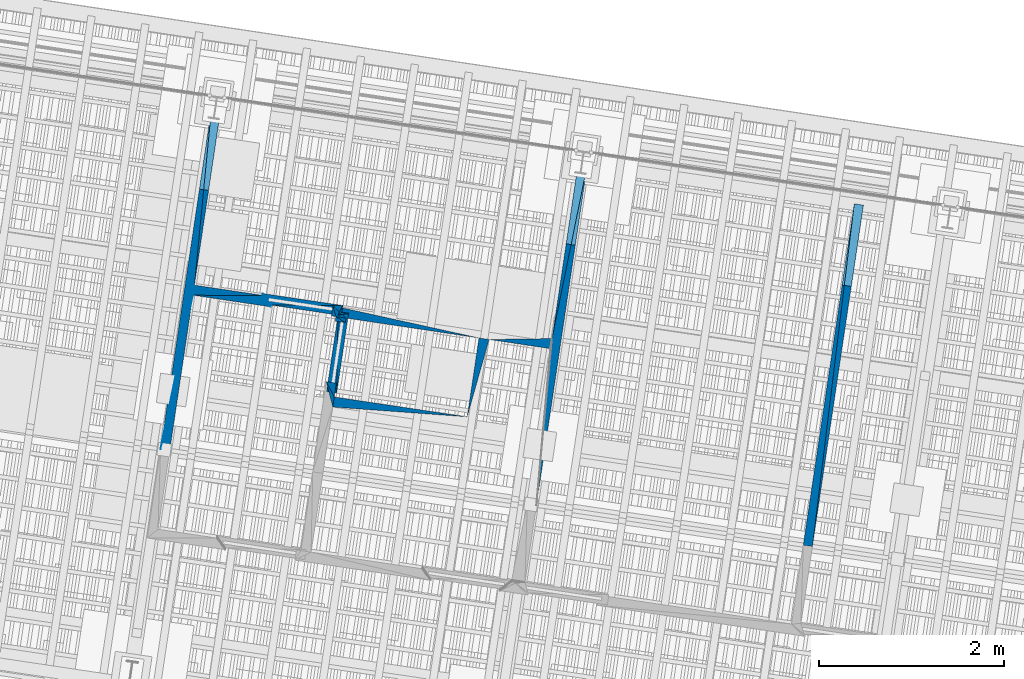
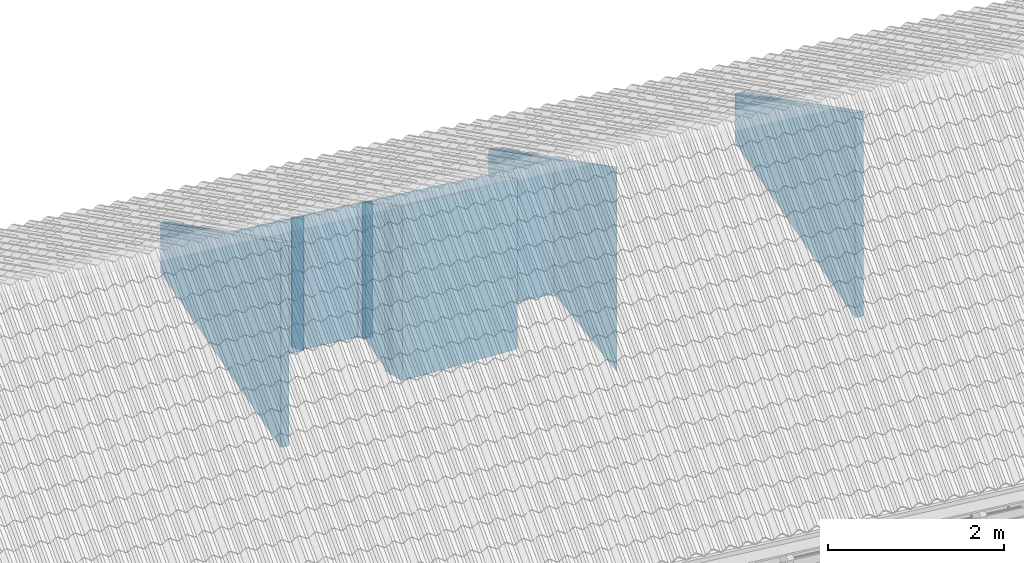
# One storey, part 125 of 131: 28 walls.
"""IFC4 building model written with IfcOpenShell, lengths in metres."""

from ifc_helpers import new_model, si_unit, direction, frame, origin_with_axes, place, context, subcontext, project, spatial, polygons, material, element, save


model = new_model("IFC4")

# Units and contexts
model_context = context("Model", 3, precision=1e-05, world=origin_with_axes(), true_north=direction((0.0, 1.0)))
body_context = subcontext(model_context, "Body", "Model", "MODEL_VIEW")
ifc_project = project(units=[si_unit("VOLUMEUNIT", "CUBIC_METRE"), si_unit("LENGTHUNIT", "METRE"), si_unit("AREAUNIT", "SQUARE_METRE")], contexts=[model_context])

# Site, building, storey
site_placement = place(None, origin_with_axes())
site = spatial("IfcSite", under=ifc_project, at=site_placement, Name="Lares · Rua das Mercês · artigo 4771")
building_placement = place(site_placement, frame((15.0, 9.7, 14.65), z_axis=(0.0, 0.0, 1.0), x_axis=(0.989015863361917, -0.147809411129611, 0.0)))
building = spatial("IfcBuilding", under=site, at=building_placement, Name="Casa Sobreposta")
storey_placement = place(building_placement, origin_with_axes())
storey = spatial("IfcBuildingStorey", under=building, at=storey_placement, Name="00 · Habitação e estacionamento", Elevation=14.65)

# Walls
ifc_material = material(Name="OSB", Category="wood")
wall_1_placement = place(storey_placement, origin_with_axes())
element("IfcWall", 1, at=wall_1_placement, inside=storey, material=ifc_material, Name="Divisória · prolongamento até ao forro", context=body_context, shape_type="Tessellation", body=[
    polygons([(7.96000000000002, 6.27299999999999, 3.05), (7.96000000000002, 2.55, 3.05), (8.05999999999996, 4.35299999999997, 3.05), (7.96000000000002, 6.27299999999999, 3.73973364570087), (7.96000000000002, 2.55, 5.88920869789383), (8.05999999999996, 4.35299999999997, 4.84824616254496)], [[[3, 2, 1]], [[4, 5, 6]], [[1, 2, 5, 4]], [[2, 3, 6, 5]], [[3, 1, 4, 6]]]),
])
wall_2_placement = place(storey_placement, origin_with_axes())
element("IfcWall", 2, at=wall_2_placement, inside=storey, material=ifc_material, Name="Divisória · prolongamento até ao forro", context=body_context, shape_type="Tessellation", body=[
    polygons([(7.96000000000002, 6.27299999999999, 3.05), (8.05999999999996, 4.35299999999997, 3.05), (8.05999999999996, 6.27299999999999, 3.05), (7.96000000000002, 6.27299999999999, 3.73973364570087), (8.05999999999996, 4.35299999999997, 4.84824616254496), (8.05999999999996, 6.27299999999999, 3.73973364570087)], [[[3, 2, 1]], [[4, 5, 6]], [[1, 2, 5, 4]], [[2, 3, 6, 5]], [[3, 1, 4, 6]]]),
])
wall_3_placement = place(storey_placement, origin_with_axes())
element("IfcWall", 3, at=wall_3_placement, inside=storey, material=ifc_material, Name="Divisória · prolongamento até ao forro", context=body_context, shape_type="Tessellation", body=[
    polygons([(9.74955631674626, 4.29756574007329, 3.05), (9.67461809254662, 4.29755537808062, 3.05), (9.63956117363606, 4.26243297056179, 3.05), (9.74955631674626, 4.29756574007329, 4.88025114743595), (9.67461809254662, 4.29755537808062, 4.88025712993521), (9.63956117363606, 4.26243297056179, 4.90053506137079)], [[[3, 2, 1]], [[4, 5, 6]], [[1, 2, 5, 4]], [[2, 3, 6, 5]], [[3, 1, 4, 6]]]),
])
wall_4_placement = place(storey_placement, origin_with_axes())
element("IfcWall", 4, at=wall_4_placement, inside=storey, material=ifc_material, Name="Divisória · prolongamento até ao forro", context=body_context, shape_type="Tessellation", body=[
    polygons([(9.74955631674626, 4.29756574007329, 3.05), (9.63956117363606, 4.26243297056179, 3.05), (9.74967661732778, 3.42754853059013, 3.05), (9.74955631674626, 4.29756574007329, 4.88025114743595), (9.63956117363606, 4.26243297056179, 4.90053506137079), (9.74967661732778, 3.42754853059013, 5.38255581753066)], [[[3, 2, 1]], [[4, 5, 6]], [[1, 2, 5, 4]], [[2, 3, 6, 5]], [[3, 1, 4, 6]]]),
])
wall_5_placement = place(storey_placement, origin_with_axes())
element("IfcWall", 5, at=wall_5_placement, inside=storey, material=ifc_material, Name="Divisória · prolongamento até ao forro", context=body_context, shape_type="Tessellation", body=[
    polygons([(9.74967661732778, 3.42754853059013, 3.05), (9.63956117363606, 4.26243297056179, 3.05), (9.63967661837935, 3.4275333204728, 3.05), (9.74967661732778, 3.42754853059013, 5.38255581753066), (9.63956117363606, 4.26243297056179, 4.90053506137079), (9.63967661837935, 3.4275333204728, 5.382564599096)], [[[3, 2, 1]], [[4, 5, 6]], [[1, 2, 5, 4]], [[2, 3, 6, 5]], [[3, 1, 4, 6]]]),
])
wall_6_placement = place(storey_placement, origin_with_axes())
element("IfcWall", 6, at=wall_6_placement, inside=storey, material=ifc_material, Name="Divisória · prolongamento até ao forro", context=body_context, shape_type="Tessellation", body=[
    polygons([(8.05999999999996, 2.55, 3.05), (8.05999999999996, 4.24299999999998, 3.05), (7.96000000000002, 2.55, 3.05), (8.05999999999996, 2.55, 5.88920869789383), (8.05999999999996, 4.24299999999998, 4.91175469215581), (7.96000000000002, 2.55, 5.88920869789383)], [[[3, 2, 1]], [[4, 5, 6]], [[1, 2, 5, 4]], [[2, 3, 6, 5]], [[3, 1, 4, 6]]]),
])
wall_7_placement = place(storey_placement, origin_with_axes())
element("IfcWall", 7, at=wall_7_placement, inside=storey, material=ifc_material, Name="Divisória · prolongamento até ao forro", context=body_context, shape_type="Tessellation", body=[
    polygons([(7.96000000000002, 2.55, 3.05), (8.05999999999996, 4.24299999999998, 3.05), (8.05999999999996, 4.35299999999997, 3.05), (7.96000000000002, 2.55, 5.88920869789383), (8.05999999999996, 4.24299999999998, 4.91175469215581), (8.05999999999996, 4.35299999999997, 4.84824616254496)], [[[3, 2, 1]], [[4, 5, 6]], [[1, 2, 5, 4]], [[2, 3, 6, 5]], [[3, 1, 4, 6]]]),
])
wall_8_placement = place(storey_placement, origin_with_axes())
element("IfcWall", 8, at=wall_8_placement, inside=storey, material=ifc_material, Name="Divisória · prolongamento até ao forro", context=body_context, shape_type="Tessellation", body=[
    polygons([(8.05999999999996, 4.35299999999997, 3.05), (8.05999999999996, 4.24299999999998, 3.05), (8.80454037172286, 4.35299999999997, 3.05), (8.05999999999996, 4.35299999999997, 4.84824616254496), (8.05999999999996, 4.24299999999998, 4.91175469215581), (8.80454037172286, 4.35299999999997, 4.84824616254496)], [[[3, 2, 1]], [[4, 5, 6]], [[1, 2, 5, 4]], [[2, 3, 6, 5]], [[3, 1, 4, 6]]]),
])
wall_9_placement = place(storey_placement, origin_with_axes())
element("IfcWall", 9, at=wall_9_placement, inside=storey, material=ifc_material, Name="Divisória · prolongamento até ao forro", context=body_context, shape_type="Tessellation", body=[
    polygons([(8.80454322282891, 4.37255471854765, 3.05), (8.80454037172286, 4.35299999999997, 3.05), (8.90999999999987, 4.26253934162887, 3.05), (8.80454322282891, 4.37255471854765, 4.83695624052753), (8.80454037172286, 4.35299999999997, 4.84824616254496), (8.90999999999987, 4.26253934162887, 4.90047364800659)], [[[3, 2, 1]], [[4, 5, 6]], [[1, 2, 5, 4]], [[2, 3, 6, 5]], [[3, 1, 4, 6]]]),
])
wall_10_placement = place(storey_placement, origin_with_axes())
element("IfcWall", 10, at=wall_10_placement, inside=storey, material=ifc_material, Name="Divisória · prolongamento até ao forro", context=body_context, shape_type="Tessellation", body=[
    polygons([(8.80454322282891, 4.37255471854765, 3.05), (8.90999999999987, 4.26253934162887, 3.05), (9.67462900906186, 4.37242785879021, 3.05), (8.80454322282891, 4.37255471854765, 4.83695624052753), (8.90999999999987, 4.26253934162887, 4.90047364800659), (9.67462900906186, 4.37242785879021, 4.83702948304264)], [[[3, 2, 1]], [[4, 5, 6]], [[1, 2, 5, 4]], [[2, 3, 6, 5]], [[3, 1, 4, 6]]]),
])
wall_11_placement = place(storey_placement, origin_with_axes())
element("IfcWall", 11, at=wall_11_placement, inside=storey, material=ifc_material, Name="Divisória · prolongamento até ao forro", context=body_context, shape_type="Tessellation", body=[
    polygons([(9.67462900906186, 4.37242785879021, 3.05), (8.90999999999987, 4.26253934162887, 3.05), (9.63956117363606, 4.26243297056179, 3.05), (9.67462900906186, 4.37242785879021, 4.83702948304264), (8.90999999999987, 4.26253934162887, 4.90047364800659), (9.63956117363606, 4.26243297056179, 4.90053506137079)], [[[3, 2, 1]], [[4, 5, 6]], [[1, 2, 5, 4]], [[2, 3, 6, 5]], [[3, 1, 4, 6]]]),
])
wall_12_placement = place(storey_placement, origin_with_axes())
element("IfcWall", 12, at=wall_12_placement, inside=storey, material=ifc_material, Name="Divisória · prolongamento até ao forro", context=body_context, shape_type="Tessellation", body=[
    polygons([(9.67462900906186, 4.37242785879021, 3.05), (9.63956117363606, 4.26243297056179, 3.05), (9.67461809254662, 4.29755537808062, 3.05), (9.67462900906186, 4.37242785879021, 4.83702948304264), (9.63956117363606, 4.26243297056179, 4.90053506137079), (9.67461809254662, 4.29755537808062, 4.88025712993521)], [[[3, 2, 1]], [[4, 5, 6]], [[1, 2, 5, 4]], [[2, 3, 6, 5]], [[3, 1, 4, 6]]]),
])
wall_13_placement = place(storey_placement, origin_with_axes())
element("IfcWall", 13, at=wall_13_placement, inside=storey, material=ifc_material, Name="Divisória · prolongamento até ao forro", context=body_context, shape_type="Tessellation", body=[
    polygons([(8.90999999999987, 4.24299999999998, 3.05), (8.90999999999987, 4.26253934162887, 3.05), (8.80454037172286, 4.35299999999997, 3.05), (8.90999999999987, 4.24299999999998, 4.91175469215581), (8.90999999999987, 4.26253934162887, 4.90047364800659), (8.80454037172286, 4.35299999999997, 4.84824616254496)], [[[3, 2, 1]], [[4, 5, 6]], [[1, 2, 5, 4]], [[2, 3, 6, 5]], [[3, 1, 4, 6]]]),
])
wall_14_placement = place(storey_placement, origin_with_axes())
element("IfcWall", 14, at=wall_14_placement, inside=storey, material=ifc_material, Name="Divisória · prolongamento até ao forro", context=body_context, shape_type="Tessellation", body=[
    polygons([(8.90999999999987, 4.24299999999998, 3.05), (8.80454037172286, 4.35299999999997, 3.05), (8.05999999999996, 4.24299999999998, 3.05), (8.90999999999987, 4.24299999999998, 4.91175469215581), (8.80454037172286, 4.35299999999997, 4.84824616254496), (8.05999999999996, 4.24299999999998, 4.91175469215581)], [[[3, 2, 1]], [[4, 5, 6]], [[1, 2, 5, 4]], [[2, 3, 6, 5]], [[3, 1, 4, 6]]]),
])
wall_15_placement = place(storey_placement, origin_with_axes())
element("IfcWall", 15, at=wall_15_placement, inside=storey, material=ifc_material, Name="Divisória · prolongamento até ao forro", context=body_context, shape_type="Tessellation", body=[
    polygons([(9.56999999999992, 4.35299999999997, 3.05), (9.56999999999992, 4.24299999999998, 3.05), (9.61999999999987, 4.24299999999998, 3.05), (9.56999999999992, 4.35299999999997, 4.84824616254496), (9.56999999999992, 4.24299999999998, 4.91175469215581), (9.61999999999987, 4.24299999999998, 4.91175469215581)], [[[3, 2, 1]], [[4, 5, 6]], [[1, 2, 5, 4]], [[2, 3, 6, 5]], [[3, 1, 4, 6]]]),
])
wall_16_placement = place(storey_placement, origin_with_axes())
element("IfcWall", 16, at=wall_16_placement, inside=storey, material=ifc_material, Name="Divisória · prolongamento até ao forro", context=body_context, shape_type="Tessellation", body=[
    polygons([(9.56999999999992, 4.35299999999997, 3.05), (9.61999999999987, 4.24299999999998, 3.05), (9.72999999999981, 4.24299999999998, 3.05), (9.56999999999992, 4.35299999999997, 4.84824616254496), (9.61999999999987, 4.24299999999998, 4.91175469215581), (9.72999999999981, 4.24299999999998, 4.91175469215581)], [[[3, 2, 1]], [[4, 5, 6]], [[1, 2, 5, 4]], [[2, 3, 6, 5]], [[3, 1, 4, 6]]]),
])
wall_17_placement = place(storey_placement, origin_with_axes())
element("IfcWall", 17, at=wall_17_placement, inside=storey, material=ifc_material, Name="Divisória · prolongamento até ao forro", context=body_context, shape_type="Tessellation", body=[
    polygons([(9.56999999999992, 4.35299999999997, 3.05), (9.72999999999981, 4.24299999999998, 3.05), (11.1799999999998, 4.24299999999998, 3.05), (9.56999999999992, 4.35299999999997, 4.84824616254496), (9.72999999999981, 4.24299999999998, 4.91175469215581), (11.1799999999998, 4.24299999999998, 4.91175469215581)], [[[3, 2, 1]], [[4, 5, 6]], [[1, 2, 5, 4]], [[2, 3, 6, 5]], [[3, 1, 4, 6]]]),
])
wall_18_placement = place(storey_placement, origin_with_axes())
element("IfcWall", 18, at=wall_18_placement, inside=storey, material=ifc_material, Name="Divisória · prolongamento até ao forro", context=body_context, shape_type="Tessellation", body=[
    polygons([(11.96, 6.27299999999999, 3.05), (11.96, 4.35299999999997, 3.05), (12.06, 6.27299999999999, 3.05), (11.96, 6.27299999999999, 3.73973364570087), (11.96, 4.35299999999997, 4.84824616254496), (12.06, 6.27299999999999, 3.73973364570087)], [[[3, 2, 1]], [[4, 5, 6]], [[1, 2, 5, 4]], [[2, 3, 6, 5]], [[3, 1, 4, 6]]]),
])
wall_19_placement = place(storey_placement, origin_with_axes())
element("IfcWall", 19, at=wall_19_placement, inside=storey, material=ifc_material, Name="Divisória · prolongamento até ao forro", context=body_context, shape_type="Tessellation", body=[
    polygons([(12.06, 6.27299999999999, 3.05), (11.96, 4.35299999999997, 3.05), (12.06, 2.55, 3.05), (12.06, 6.27299999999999, 3.73973364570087), (11.96, 4.35299999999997, 4.84824616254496), (12.06, 2.55, 5.88920869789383)], [[[3, 2, 1]], [[4, 5, 6]], [[1, 2, 5, 4]], [[2, 3, 6, 5]], [[3, 1, 4, 6]]]),
])
wall_20_placement = place(storey_placement, origin_with_axes())
element("IfcWall", 20, at=wall_20_placement, inside=storey, material=ifc_material, Name="Divisória · prolongamento até ao forro", context=body_context, shape_type="Tessellation", body=[
    polygons([(9.61999999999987, 4.24299999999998, 3.05), (9.61999999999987, 4.19299999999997, 3.05), (9.72999999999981, 4.19299999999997, 3.05), (9.61999999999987, 4.24299999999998, 4.91175469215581), (9.61999999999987, 4.19299999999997, 4.9406222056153), (9.72999999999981, 4.19299999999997, 4.9406222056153)], [[[3, 2, 1]], [[4, 5, 6]], [[1, 2, 5, 4]], [[2, 3, 6, 5]], [[3, 1, 4, 6]]]),
])
wall_21_placement = place(storey_placement, origin_with_axes())
element("IfcWall", 21, at=wall_21_placement, inside=storey, material=ifc_material, Name="Divisória · prolongamento até ao forro", context=body_context, shape_type="Tessellation", body=[
    polygons([(9.61999999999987, 4.24299999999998, 3.05), (9.72999999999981, 4.19299999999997, 3.05), (9.72999999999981, 4.24299999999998, 3.05), (9.61999999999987, 4.24299999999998, 4.91175469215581), (9.72999999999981, 4.19299999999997, 4.9406222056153), (9.72999999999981, 4.24299999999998, 4.91175469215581)], [[[3, 2, 1]], [[4, 5, 6]], [[1, 2, 5, 4]], [[2, 3, 6, 5]], [[3, 1, 4, 6]]]),
])
wall_22_placement = place(storey_placement, origin_with_axes())
element("IfcWall", 22, at=wall_22_placement, inside=storey, material=ifc_material, Name="Divisória · prolongamento até ao forro", context=body_context, shape_type="Tessellation", body=[
    polygons([(11.1799999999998, 4.24299999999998, 3.05), (11.1799999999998, 3.383, 3.05), (11.29, 4.24299999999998, 3.05), (11.1799999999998, 4.24299999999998, 4.91175469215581), (11.1799999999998, 3.383, 5.40827592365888), (11.29, 4.24299999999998, 4.91175469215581)], [[[3, 2, 1]], [[4, 5, 6]], [[1, 2, 5, 4]], [[2, 3, 6, 5]], [[3, 1, 4, 6]]]),
])
wall_23_placement = place(storey_placement, origin_with_axes())
element("IfcWall", 23, at=wall_23_placement, inside=storey, material=ifc_material, Name="Divisória · prolongamento até ao forro", context=body_context, shape_type="Tessellation", body=[
    polygons([(11.29, 4.24299999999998, 3.05), (11.96, 4.24299999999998, 3.05), (11.96, 4.35299999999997, 3.05), (11.29, 4.24299999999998, 4.91175469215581), (11.96, 4.24299999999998, 4.91175469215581), (11.96, 4.35299999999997, 4.84824616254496)], [[[3, 2, 1]], [[4, 5, 6]], [[1, 2, 5, 4]], [[2, 3, 6, 5]], [[3, 1, 4, 6]]]),
])
wall_24_placement = place(storey_placement, origin_with_axes())
element("IfcWall", 24, at=wall_24_placement, inside=storey, material=ifc_material, Name="Divisória · prolongamento até ao forro", context=body_context, shape_type="Tessellation", body=[
    polygons([(11.1799999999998, 3.383, 3.05), (9.72999999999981, 3.383, 3.05), (9.72999999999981, 3.27300000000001, 3.05), (11.1799999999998, 3.383, 5.40827592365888), (9.72999999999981, 3.383, 5.40827592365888), (9.72999999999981, 3.27300000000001, 5.47178445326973)], [[[3, 2, 1]], [[4, 5, 6]], [[1, 2, 5, 4]], [[2, 3, 6, 5]], [[3, 1, 4, 6]]]),
])
wall_25_placement = place(storey_placement, origin_with_axes())
element("IfcWall", 25, at=wall_25_placement, inside=storey, material=ifc_material, Name="Divisória · prolongamento até ao forro", context=body_context, shape_type="Tessellation", body=[
    polygons([(9.72999999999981, 3.27300000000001, 3.05), (9.72999999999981, 3.383, 3.05), (9.61999999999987, 3.53299999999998, 3.05), (9.72999999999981, 3.27300000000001, 5.47178445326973), (9.72999999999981, 3.383, 5.40827592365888), (9.61999999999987, 3.53299999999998, 5.32167338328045)], [[[3, 2, 1]], [[4, 5, 6]], [[1, 2, 5, 4]], [[2, 3, 6, 5]], [[3, 1, 4, 6]]]),
])
wall_26_placement = place(storey_placement, origin_with_axes())
element("IfcWall", 26, at=wall_26_placement, inside=storey, material=ifc_material, Name="Divisória · prolongamento até ao forro", context=body_context, shape_type="Tessellation", body=[
    polygons([(9.61999999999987, 3.53299999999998, 3.05), (9.72999999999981, 3.383, 3.05), (9.72999999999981, 3.53299999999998, 3.05), (9.61999999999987, 3.53299999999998, 5.32167338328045), (9.72999999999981, 3.383, 5.40827592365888), (9.72999999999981, 3.53299999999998, 5.32167338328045)], [[[3, 2, 1]], [[4, 5, 6]], [[1, 2, 5, 4]], [[2, 3, 6, 5]], [[3, 1, 4, 6]]]),
])
wall_27_placement = place(storey_placement, origin_with_axes())
element("IfcWall", 27, at=wall_27_placement, inside=storey, material=ifc_material, Name="Divisória · prolongamento até ao forro", context=body_context, shape_type="Tessellation", body=[
    polygons([(14.97, 6.27299999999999, 3.05), (14.97, 2.55, 3.05), (15.07, 2.55, 3.05), (14.97, 6.27299999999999, 3.73973364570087), (14.97, 2.55, 5.88920869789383), (15.07, 2.55, 5.88920869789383)], [[[3, 2, 1]], [[4, 5, 6]], [[1, 2, 5, 4]], [[2, 3, 6, 5]], [[3, 1, 4, 6]]]),
])
wall_28_placement = place(storey_placement, origin_with_axes())
element("IfcWall", 28, at=wall_28_placement, inside=storey, material=ifc_material, Name="Divisória · prolongamento até ao forro", context=body_context, shape_type="Tessellation", body=[
    polygons([(14.97, 6.27299999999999, 3.05), (15.07, 2.55, 3.05), (15.07, 6.27299999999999, 3.05), (14.97, 6.27299999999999, 3.73973364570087), (15.07, 2.55, 5.88920869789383), (15.07, 6.27299999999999, 3.73973364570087)], [[[3, 2, 1]], [[4, 5, 6]], [[1, 2, 5, 4]], [[2, 3, 6, 5]], [[3, 1, 4, 6]]]),
])

save(model, "model.ifc")
